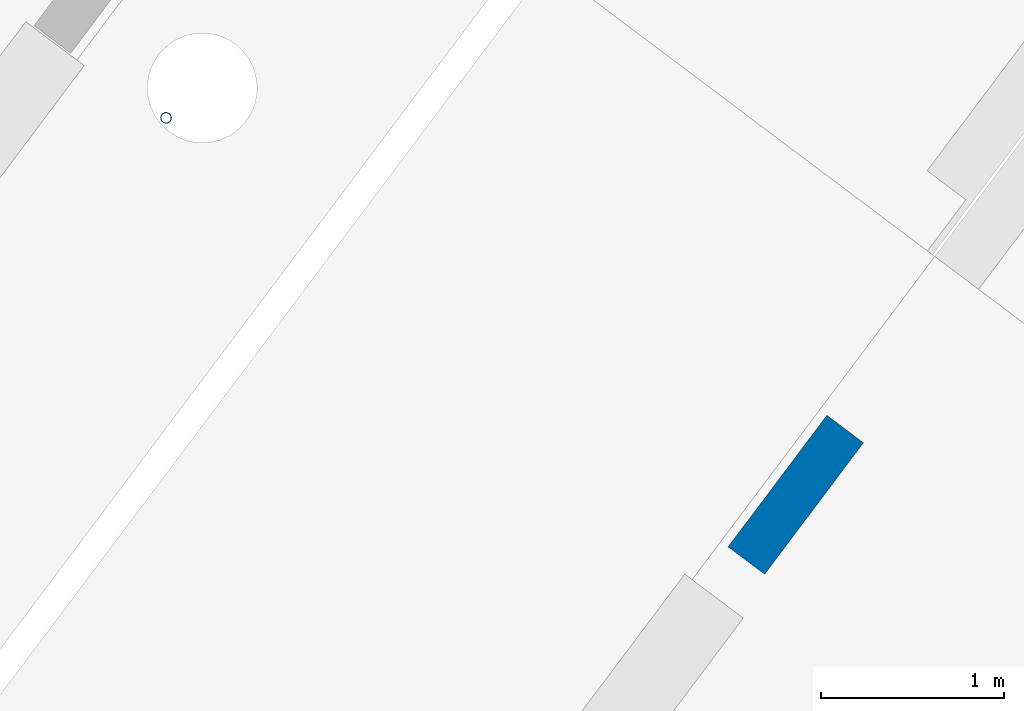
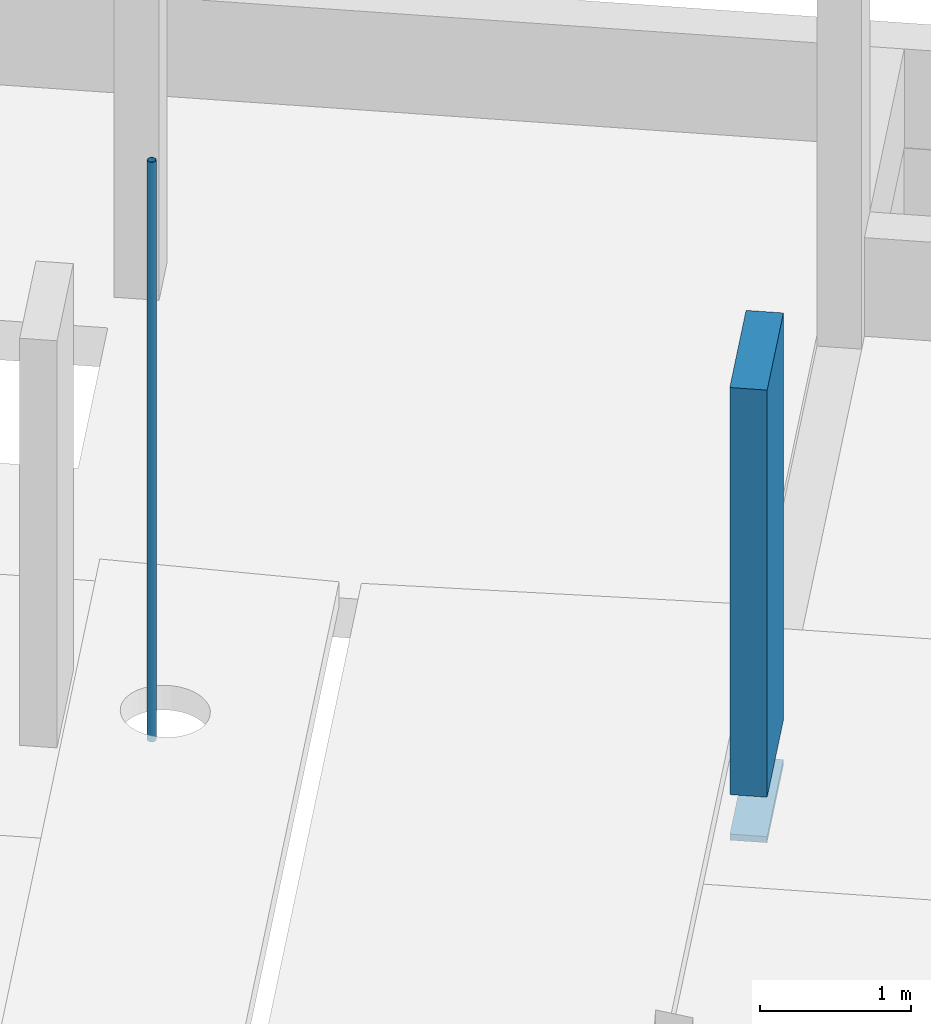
# One storey, part 12 of 24: 2 columns.
"""IFC2X3 building model written with IfcOpenShell, lengths in metres."""

import ifcopenshell
import ifcopenshell.guid

model = None  # the IFC model being written
_history = None  # IfcOwnerHistory: only IFC2X3 demands one
_inside = {}  # id of a spatial element -> (the spatial element, [elements in it])
_under = {}  # id of a project, library or spatial element -> (it, [spatial elements below it])
_declared = {}  # id of a project -> (the project, [libraries it declares])
_typed = {}  # id of a type object -> (the type object, [elements of that type])
_made_of = {}  # id of a material, layer set ... -> (it, [elements and type objects made of it])


def new_model(schema):
    """Start an empty IFC model of exactly this schema.

    Asked for "IFC4X3", IfcOpenShell would pick the latest addendum, in which some entities
    have other attributes; the version numbers below select the first issue.
    IFC2X3 requires an IfcOwnerHistory on every rooted entity: one is made here for all.
    """
    global model, _history
    if schema == "IFC4X3":
        model = ifcopenshell.file(schema_version=(4, 3, 0, 0))
    else:
        model = ifcopenshell.file(schema=schema)
    _inside.clear()
    _under.clear()
    _declared.clear()
    _typed.clear()
    _made_of.clear()
    _history = None
    if model.schema == "IFC2X3":
        org = make("IfcOrganization", Name="unknown")
        user = make(
            "IfcPersonAndOrganization",
            ThePerson=make("IfcPerson", FamilyName="unknown"),
            TheOrganization=org,
        )
        app = make(
            "IfcApplication",
            ApplicationDeveloper=org,
            Version="unknown",
            ApplicationFullName="unknown",
            ApplicationIdentifier="unknown",
        )
        _history = make(
            "IfcOwnerHistory",
            OwningUser=user,
            OwningApplication=app,
            ChangeAction="ADDED",
            CreationDate=0,
        )
    return model


def make(cls, **values):
    """One entity of the class cls with the attributes given. An attribute that is None is left unset."""
    return model.create_entity(
        cls, **{name: value for name, value in values.items() if value is not None}
    )


def entity(cls, *values):
    """Any entity or typed value of the class cls, its attributes in the order of the schema. None: left unset."""
    e = model.create_entity(cls)
    for i, value in enumerate(values):
        if value is not None:
            e[i] = value
    return e


def rooted(cls, **values):
    """An entity with a GlobalId (a new one), such as an element, a storey or a relation."""
    return make(cls, GlobalId=ifcopenshell.guid.new(), OwnerHistory=_history, **values)


def si_unit(unit_type, name, prefix=None):
    """IfcSIUnit, for example si_unit("LENGTHUNIT", "METRE", prefix="MILLI")."""
    return make("IfcSIUnit", UnitType=unit_type, Prefix=prefix, Name=name)


def converted_unit(unit_type, name, factor, base, dimensions=None, offset=None):
    """IfcConversionBasedUnit, such as the inch: factor (a typed value) times the base unit."""
    return make(
        "IfcConversionBasedUnit"
        if offset is None
        else "IfcConversionBasedUnitWithOffset",
        ConversionOffset=offset,
        Dimensions=None
        if dimensions is None
        else entity("IfcDimensionalExponents", *dimensions),
        UnitType=unit_type,
        Name=name,
        ConversionFactor=make(
            "IfcMeasureWithUnit", ValueComponent=factor, UnitComponent=base
        ),
    )


def derived_unit(unit_type, elements):
    """IfcDerivedUnit: a product of units, each with its exponent."""
    return make(
        "IfcDerivedUnit",
        Elements=[
            make("IfcDerivedUnitElement", Unit=unit, Exponent=power)
            for unit, power in elements
        ],
        UnitType=unit_type,
    )


def assignment(units):
    """IfcUnitAssignment: the units of a project."""
    return None if units is None else make("IfcUnitAssignment", Units=units)


def point(xyz):
    """IfcCartesianPoint."""
    return None if xyz is None else make("IfcCartesianPoint", Coordinates=xyz)


def direction(xyz):
    """IfcDirection."""
    return None if xyz is None else make("IfcDirection", DirectionRatios=xyz)


def frame(location, z_axis=None, x_axis=None):
    """IfcAxis2Placement3D, a coordinate frame: its origin and axes. An axis left out is left unset."""
    return make(
        "IfcAxis2Placement3D",
        Location=point(location),
        Axis=direction(z_axis),
        RefDirection=direction(x_axis),
    )


def frame_2d(location, x_axis=None):
    """IfcAxis2Placement2D, a coordinate frame in the plane: its origin and x axis."""
    return make(
        "IfcAxis2Placement2D", Location=point(location), RefDirection=direction(x_axis)
    )


def origin():
    """The frame at (0, 0, 0) with its axes left unset."""
    return frame((0.0, 0.0, 0.0))


def place(relative_to, where):
    """IfcLocalPlacement: puts the frame where relative to a parent placement (None: the world)."""
    return make(
        "IfcLocalPlacement", PlacementRelTo=relative_to, RelativePlacement=where
    )


def context(
    kind, dimensions, precision=None, world=None, true_north=None, identifier=None
):
    """IfcGeometricRepresentationContext, for example the 3D "Model" context."""
    return make(
        "IfcGeometricRepresentationContext",
        ContextIdentifier=identifier,
        ContextType=kind,
        CoordinateSpaceDimension=dimensions,
        Precision=precision,
        WorldCoordinateSystem=world,
        TrueNorth=true_north,
    )


def subcontext(parent, identifier, kind, view, scale=None):
    """IfcGeometricRepresentationSubContext, for example "Body" below "Model"."""
    return make(
        "IfcGeometricRepresentationSubContext",
        ContextIdentifier=identifier,
        ContextType=kind,
        ParentContext=parent,
        TargetScale=scale,
        TargetView=view,
    )


def project(units=None, contexts=None):
    """IfcProject with its units and contexts."""
    return rooted(
        "IfcProject",
        Name="project",
        RepresentationContexts=contexts,
        UnitsInContext=assignment(units),
    )


def spatial(cls, under=None, at=None, **own):
    """A site, building, storey or space (cls), placed at a placement, below another one or the project."""
    s = rooted(cls, ObjectPlacement=at, **own)
    if under is not None:
        _under.setdefault(under.id(), (under, []))[1].append(s)
    return s


def profile(cls, at=None, kind="AREA", **sizes):
    """A parametric profile (cls). Its sizes go by their IFC names, for example OverallWidth=200.0."""
    return make(cls, ProfileType=kind, Position=at, **sizes)


def rectangle(**sizes):
    """IfcRectangleProfileDef."""
    return profile("IfcRectangleProfileDef", **sizes)


def hollow_circle(**sizes):
    """IfcCircleHollowProfileDef."""
    return profile("IfcCircleHollowProfileDef", **sizes)


def extrude(swept, where, along, depth):
    """IfcExtrudedAreaSolid: the profile swept, set in the frame where, extruded along a direction by depth."""
    return make(
        "IfcExtrudedAreaSolid",
        SweptArea=swept,
        Position=where,
        ExtrudedDirection=direction(along),
        Depth=depth,
    )


def shape(context_of_items, identifier, shape_type, items):
    """IfcShapeRepresentation: the items that make up one representation, for example the "Body"."""
    return make(
        "IfcShapeRepresentation",
        ContextOfItems=context_of_items,
        RepresentationIdentifier=identifier,
        RepresentationType=shape_type,
        Items=items,
    )


def source(mapping_origin, context_of_items, identifier, shape_type, items):
    """IfcRepresentationMap: a shape defined once, which mapped items show again and again."""
    return make(
        "IfcRepresentationMap",
        MappingOrigin=mapping_origin,
        MappedRepresentation=shape(context_of_items, identifier, shape_type, items),
    )


def transform(
    local_origin,
    x_axis=None,
    y_axis=None,
    z_axis=None,
    scale=None,
    scale2=None,
    scale3=None,
    uniform=True,
):
    """IfcCartesianTransformationOperator3D, or its non-uniform kind. x_axis, y_axis, z_axis: its Axis1, 2, 3."""
    if uniform:
        return make(
            "IfcCartesianTransformationOperator3D",
            Axis1=direction(x_axis),
            Axis2=direction(y_axis),
            LocalOrigin=point(local_origin),
            Scale=scale,
            Axis3=direction(z_axis),
        )
    return make(
        "IfcCartesianTransformationOperator3DnonUniform",
        Axis1=direction(x_axis),
        Axis2=direction(y_axis),
        LocalOrigin=point(local_origin),
        Scale=scale,
        Axis3=direction(z_axis),
        Scale2=scale2,
        Scale3=scale3,
    )


def mapped(mapping_source, mapping_target):
    """IfcMappedItem: shows the shape of a source again, moved by a transform."""
    return make(
        "IfcMappedItem", MappingSource=mapping_source, MappingTarget=mapping_target
    )


def material(Name=None, Category=None):
    """IfcMaterial."""
    return make("IfcMaterial", Name=Name, Category=Category)


def made_of(thing, what):
    """Note that an element or type object is made of a material, layer set ...; save() writes the relation."""
    if what is not None:
        _made_of.setdefault(what.id(), (what, []))[1].append(thing)
    return thing


def type_object(cls, material=None, **own):
    """A type object (cls), such as IfcWallType, which elements share."""
    return made_of(rooted(cls, **own), material)


def type_shapes(of_type, sources):
    """Give a type object the sources (RepresentationMaps) that its elements show as mapped items."""
    of_type.RepresentationMaps = sources


def element(
    cls,
    number,
    at=None,
    inside=None,
    cuts=None,
    type_object=None,
    material=None,
    context=None,
    identifier="Body",
    shape_type=None,
    held_by="IfcProductDefinitionShape",
    body=None,
    shapes=None,
    **own,
):
    """One element of the class cls, such as IfcWall. Its Tag is "e" and its number.

    at: its placement. inside: the storey or other place that contains it. cuts: it is an
    opening in that element (IfcRelVoidsElement). A single representation is given by context,
    identifier, shape_type and body (its items); several are given by shapes. held_by: the class
    of the entity that holds the representations. save() writes the other relations.
    """
    e = rooted(cls, Tag="e%d" % number, ObjectPlacement=at, **own)
    if body is not None:
        shapes = [shape(context, identifier, shape_type, body)]
    if shapes is not None:
        e.Representation = make(held_by, Representations=shapes)
    if inside is not None:
        _inside.setdefault(inside.id(), (inside, []))[1].append(e)
    if cuts is not None:
        rooted(
            "IfcRelVoidsElement", RelatingBuildingElement=cuts, RelatedOpeningElement=e
        )
    if type_object is not None:
        _typed.setdefault(type_object.id(), (type_object, []))[1].append(e)
    return made_of(e, material)


def aggregate(whole, parts):
    """IfcRelAggregates: a whole, such as a stair, and the parts it consists of."""
    return rooted("IfcRelAggregates", RelatingObject=whole, RelatedObjects=parts)


def save(model, path):
    """Write the relations noted so far, then the file.

    IfcRelAggregates (storeys below a building ...), IfcRelContainedInSpatialStructure (elements
    in a storey), IfcRelDefinesByType, IfcRelAssociatesMaterial and IfcRelDeclares: one each for
    every whole, place, type object, material and project.
    """
    for whole, parts in _under.values():
        aggregate(whole, parts)
    for where, things in _inside.values():
        rooted(
            "IfcRelContainedInSpatialStructure",
            RelatedElements=things,
            RelatingStructure=where,
        )
    for kind, things in _typed.values():
        rooted("IfcRelDefinesByType", RelatedObjects=things, RelatingType=kind)
    for what, things in _made_of.values():
        rooted("IfcRelAssociatesMaterial", RelatedObjects=things, RelatingMaterial=what)
    for by, libraries in _declared.values():
        rooted("IfcRelDeclares", RelatingContext=by, RelatedDefinitions=libraries)
    model.write(path)


model = new_model("IFC2X3")

# Units and contexts
model_context = context("Model", 3, precision=1e-05, world=origin(), true_north=direction((6.123031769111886e-17, 1.0)))
body_context = subcontext(model_context, "Body", "Model", "MODEL_VIEW")
ifc_project = project(units=[si_unit("LENGTHUNIT", "METRE"), si_unit("AREAUNIT", "SQUARE_METRE"), si_unit("VOLUMEUNIT", "CUBIC_METRE"), converted_unit("PLANEANGLEUNIT", "DEGREE", entity("IfcRatioMeasure", 0.017453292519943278), si_unit("PLANEANGLEUNIT", "RADIAN"), dimensions=[0, 0, 0, 0, 0, 0, 0]), si_unit("MASSUNIT", "GRAM", prefix="KILO"), derived_unit("MASSDENSITYUNIT", [(si_unit("MASSUNIT", "GRAM", prefix="KILO"), 1), (si_unit("LENGTHUNIT", "METRE"), -3)]), derived_unit("IONCONCENTRATIONUNIT", [(si_unit("MASSUNIT", "GRAM", prefix="KILO"), 1), (si_unit("LENGTHUNIT", "METRE"), -3)]), derived_unit("MOMENTOFINERTIAUNIT", [(si_unit("LENGTHUNIT", "METRE"), 4)]), si_unit("TIMEUNIT", "SECOND"), si_unit("FREQUENCYUNIT", "HERTZ"), si_unit("THERMODYNAMICTEMPERATUREUNIT", "DEGREE_CELSIUS"), derived_unit("THERMALTRANSMITTANCEUNIT", [(si_unit("MASSUNIT", "GRAM", prefix="KILO"), 1), (si_unit("THERMODYNAMICTEMPERATUREUNIT", "KELVIN"), -1), (si_unit("TIMEUNIT", "SECOND"), -3)]), derived_unit("THERMALCONDUCTANCEUNIT", [(si_unit("MASSUNIT", "GRAM", prefix="KILO"), 1), (si_unit("THERMODYNAMICTEMPERATUREUNIT", "KELVIN"), -1), (si_unit("TIMEUNIT", "SECOND"), -3), (si_unit("LENGTHUNIT", "METRE"), 1)]), derived_unit("VOLUMETRICFLOWRATEUNIT", [(si_unit("LENGTHUNIT", "METRE"), 3), (si_unit("TIMEUNIT", "SECOND"), -1)]), derived_unit("MASSFLOWRATEUNIT", [(si_unit("MASSUNIT", "GRAM", prefix="KILO"), 1), (si_unit("TIMEUNIT", "SECOND"), -1)]), derived_unit("ROTATIONALFREQUENCYUNIT", [(si_unit("TIMEUNIT", "SECOND"), -1)]), si_unit("ELECTRICCURRENTUNIT", "AMPERE"), si_unit("ELECTRICVOLTAGEUNIT", "VOLT"), si_unit("POWERUNIT", "WATT"), si_unit("FORCEUNIT", "NEWTON", prefix="KILO"), si_unit("ILLUMINANCEUNIT", "LUX"), si_unit("LUMINOUSFLUXUNIT", "LUMEN"), si_unit("LUMINOUSINTENSITYUNIT", "CANDELA"), derived_unit("USERDEFINED", [(si_unit("MASSUNIT", "GRAM", prefix="KILO"), -1), (si_unit("LENGTHUNIT", "METRE"), -2), (si_unit("TIMEUNIT", "SECOND"), 3), (si_unit("LUMINOUSFLUXUNIT", "LUMEN"), 1)]), derived_unit("USERDEFINED", [(si_unit("MASSUNIT", "GRAM", prefix="KILO"), 1), (si_unit("TIMEUNIT", "SECOND"), -3), (si_unit("LENGTHUNIT", "METRE"), 3), (si_unit("ELECTRICCURRENTUNIT", "AMPERE"), -2)]), derived_unit("SOUNDPOWERUNIT", [(si_unit("MASSUNIT", "GRAM", prefix="KILO"), 1), (si_unit("TIMEUNIT", "SECOND"), -3), (si_unit("LENGTHUNIT", "METRE"), 2)]), derived_unit("SOUNDPRESSUREUNIT", [(si_unit("MASSUNIT", "GRAM", prefix="KILO"), 1), (si_unit("LENGTHUNIT", "METRE"), -1), (si_unit("TIMEUNIT", "SECOND"), -2)]), derived_unit("LINEARVELOCITYUNIT", [(si_unit("LENGTHUNIT", "METRE"), 1), (si_unit("TIMEUNIT", "SECOND"), -1)]), si_unit("PRESSUREUNIT", "PASCAL"), derived_unit("USERDEFINED", [(si_unit("MASSUNIT", "GRAM", prefix="KILO"), 1), (si_unit("LENGTHUNIT", "METRE"), -2), (si_unit("TIMEUNIT", "SECOND"), -2)]), derived_unit("LINEARFORCEUNIT", [(si_unit("MASSUNIT", "GRAM", prefix="KILO"), 1), (si_unit("TIMEUNIT", "SECOND"), -2)]), derived_unit("PLANARFORCEUNIT", [(si_unit("MASSUNIT", "GRAM", prefix="KILO"), 1), (si_unit("LENGTHUNIT", "METRE"), -1), (si_unit("TIMEUNIT", "SECOND"), -2)]), derived_unit("SPECIFICHEATCAPACITYUNIT", [(si_unit("THERMODYNAMICTEMPERATUREUNIT", "KELVIN"), -1), (si_unit("LENGTHUNIT", "METRE"), 2), (si_unit("TIMEUNIT", "SECOND"), -2)]), derived_unit("HEATINGVALUEUNIT", [(si_unit("LENGTHUNIT", "METRE"), 2), (si_unit("TIMEUNIT", "SECOND"), -2)]), derived_unit("VAPORPERMEABILITYUNIT", [(si_unit("LENGTHUNIT", "METRE"), -1), (si_unit("TIMEUNIT", "SECOND"), 1)]), derived_unit("DYNAMICVISCOSITYUNIT", [(si_unit("MASSUNIT", "GRAM", prefix="KILO"), 1), (si_unit("TIMEUNIT", "SECOND"), -1), (si_unit("LENGTHUNIT", "METRE"), -1)]), derived_unit("THERMALEXPANSIONCOEFFICIENTUNIT", [(si_unit("THERMODYNAMICTEMPERATUREUNIT", "KELVIN"), -1)]), derived_unit("MODULUSOFELASTICITYUNIT", [(si_unit("MASSUNIT", "GRAM", prefix="KILO"), 1), (si_unit("LENGTHUNIT", "METRE"), -1), (si_unit("TIMEUNIT", "SECOND"), -2)]), derived_unit("ISOTHERMALMOISTURECAPACITYUNIT", [(si_unit("LENGTHUNIT", "METRE"), 3), (si_unit("MASSUNIT", "GRAM", prefix="KILO"), -1)]), derived_unit("MOISTUREDIFFUSIVITYUNIT", [(si_unit("TIMEUNIT", "SECOND"), -1), (si_unit("LENGTHUNIT", "METRE"), 2)])], contexts=[model_context])

# Site, building, storey
site_placement = place(None, origin())
site = spatial("IfcSite", under=ifc_project, at=site_placement, Name="Default", CompositionType="ELEMENT")
building_placement = place(site_placement, frame((0.0, 0.0, 235.0), z_axis=(0.0, 0.0, 1.0), x_axis=(-0.7996477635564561, 0.6004693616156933, 0.0)))
building = spatial("IfcBuilding", under=site, at=building_placement, CompositionType="ELEMENT")
storey_placement = place(building_placement, origin())
storey = spatial("IfcBuildingStorey", under=building, at=storey_placement, Name="P0- Escola", CompositionType="ELEMENT", Elevation=0.0)

# Columns
ifc_material_1 = material(Name="_Formigó- T1- STR")
column_type_1 = type_object("IfcColumnType", Name="STR- P- Formigó- Rectangular- T1:25x90cm", PredefinedType="COLUMN", material=ifc_material_1)
shared_shape_1 = source(origin(), body_context, "Body", "SweptSolid", [
    extrude(rectangle(XDim=0.899999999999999, YDim=0.2499999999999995, at=frame_2d((0.0, 4.336808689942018e-15), x_axis=(1.0, 0.0))), frame((36.47014768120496, -34.91519175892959, -0.57), z_axis=(0.0, 0.0, 1.0), x_axis=(0.0, -1.0, 0.0)), (0.0, 0.0, 1.0), 0.05000000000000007),
    extrude(rectangle(XDim=0.899999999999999, YDim=0.2499999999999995, at=frame_2d((0.0, 4.336808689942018e-15), x_axis=(1.0, 0.0))), frame((36.47014768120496, -34.91519175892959, -0.2), z_axis=(0.0, 0.0, 1.0), x_axis=(0.0, -1.0, 0.0)), (0.0, 0.0, 1.0), 3.3000000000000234),
])
type_shapes(column_type_1, [shared_shape_1])
column_1_placement = place(storey_placement, origin())
element("IfcColumn", 1, at=column_1_placement, inside=storey, type_object=column_type_1, material=ifc_material_1, Name="STR- P- Formigó- Rectangular- T1:25x90cm", ObjectType="STR- P- Formigó- Rectangular- T1:25x90cm", context=body_context, shape_type="MappedRepresentation", body=[
    mapped(shared_shape_1, transform((0.0, 0.0, 0.0), scale=1.0)),
])
ifc_material_2 = material(Name="Metal - Acero - 345 MPa")
column_type_2 = type_object("IfcColumnType", Name="STR- P- Acer- CHS- Circular- T1:60.3 x 3CHS", PredefinedType="COLUMN", material=ifc_material_2)
shared_shape_2 = source(origin(), body_context, "Body", "SweptSolid", [
    extrude(hollow_circle(Radius=0.03014999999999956, WallThickness=0.0029999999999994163, at=frame_2d((-4.81877898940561e-19, 4.854464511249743e-17), x_axis=(1.0, 0.0))), frame((0.0, 0.0, -0.1)), (0.0, 0.0, 1.0), 4.700000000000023),
])
type_shapes(column_type_2, [shared_shape_2])
column_2_placement = place(storey_placement, frame((40.4651476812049, -34.49519175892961, 0.0)))
element("IfcColumn", 2, at=column_2_placement, inside=storey, type_object=column_type_2, material=ifc_material_2, Name="STR- P- Acer- CHS- Circular- T1:60.3 x 3CHS", ObjectType="STR- P- Acer- CHS- Circular- T1:60.3 x 3CHS", context=body_context, shape_type="MappedRepresentation", body=[
    mapped(shared_shape_2, transform((0.0, 0.0, 0.0), scale=1.0)),
])

save(model, "model.ifc")
